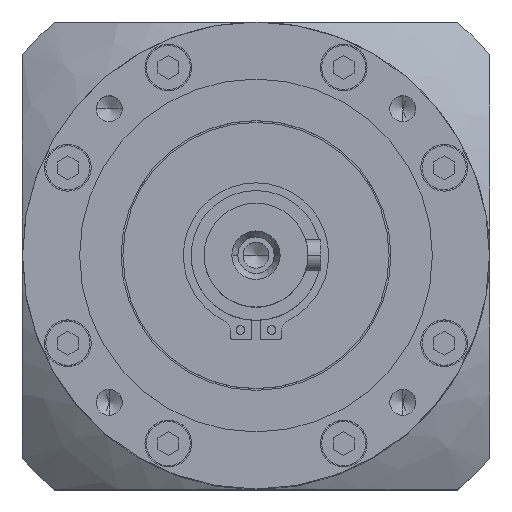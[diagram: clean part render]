
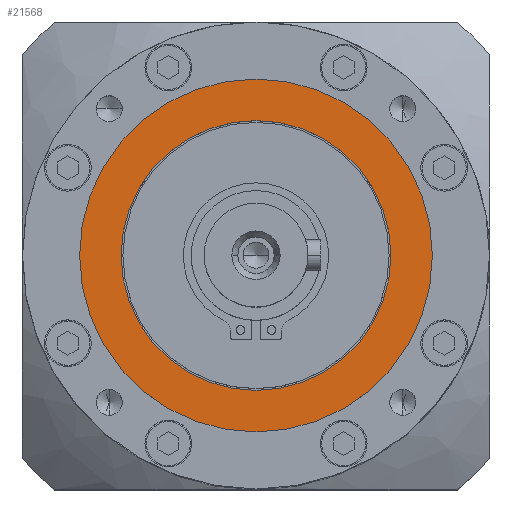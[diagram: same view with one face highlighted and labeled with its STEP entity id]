
A CAD part, top view. The second image highlights one B-rep face of the part: STEP entity #21568.
In plain terms, the highlighted planar face has unit normal (0, 0, 1).
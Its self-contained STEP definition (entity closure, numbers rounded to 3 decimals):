
#25 = CARTESIAN_POINT ( 'NONE',  ( 0., 0., 0. ) ) ;
#321 = VERTEX_POINT ( 'NONE', #33119 ) ;
#520 = FACE_BOUND ( 'NONE', #11414, .T. ) ;
#3378 = DIRECTION ( 'NONE',  ( 1., 0., 0. ) ) ;
#3518 = EDGE_CURVE ( 'NONE', #16588, #5889, #18884, .T. ) ;
#5004 = DIRECTION ( 'NONE',  ( 0., 0., -1. ) ) ;
#5874 = AXIS2_PLACEMENT_3D ( 'NONE', #24040, #10869, #34052 ) ;
#5889 = VERTEX_POINT ( 'NONE', #11510 ) ;
#7917 = CARTESIAN_POINT ( 'NONE',  ( 34., 0., 0. ) ) ;
#8549 = DIRECTION ( 'NONE',  ( 0., 0., -1. ) ) ;
#10093 = AXIS2_PLACEMENT_3D ( 'NONE', #25, #23164, #3378 ) ;
#10869 = DIRECTION ( 'NONE',  ( 0., 0., -1. ) ) ;
#11088 = EDGE_LOOP ( 'NONE', ( #12193, #41373 ) ) ;
#11189 = EDGE_CURVE ( 'NONE', #5889, #16588, #30498, .T. ) ;
#11414 = EDGE_LOOP ( 'NONE', ( #12128, #18589 ) ) ;
#11510 = CARTESIAN_POINT ( 'NONE',  ( 26., 0., 0. ) ) ;
#12120 = DIRECTION ( 'NONE',  ( 0., 0., 1. ) ) ;
#12128 = ORIENTED_EDGE ( 'NONE', *, *, #11189, .F. ) ;
#12193 = ORIENTED_EDGE ( 'NONE', *, *, #13978, .F. ) ;
#13465 = AXIS2_PLACEMENT_3D ( 'NONE', #28350, #8549, #31702 ) ;
#13542 = AXIS2_PLACEMENT_3D ( 'NONE', #31949, #12120, #35290 ) ;
#13978 = EDGE_CURVE ( 'NONE', #24036, #321, #25659, .T. ) ;
#16588 = VERTEX_POINT ( 'NONE', #27678 ) ;
#17256 = PLANE ( 'NONE',  #5874 ) ;
#18589 = ORIENTED_EDGE ( 'NONE', *, *, #3518, .F. ) ;
#18884 = CIRCLE ( 'NONE', #13542, 26. ) ;
#20665 = EDGE_CURVE ( 'NONE', #321, #24036, #31098, .T. ) ;
#21568 = ADVANCED_FACE ( 'NONE', ( #520, #35747 ), #17256, .F. ) ;
#21949 = AXIS2_PLACEMENT_3D ( 'NONE', #24798, #5004, #28128 ) ;
#23164 = DIRECTION ( 'NONE',  ( 0., 0., 1. ) ) ;
#24036 = VERTEX_POINT ( 'NONE', #7917 ) ;
#24040 = CARTESIAN_POINT ( 'NONE',  ( 0., 26., 0. ) ) ;
#24798 = CARTESIAN_POINT ( 'NONE',  ( 0., 0., 0. ) ) ;
#25659 = CIRCLE ( 'NONE', #13465, 34. ) ;
#27678 = CARTESIAN_POINT ( 'NONE',  ( -26., 0., 0. ) ) ;
#28128 = DIRECTION ( 'NONE',  ( 1., 0., 0. ) ) ;
#28350 = CARTESIAN_POINT ( 'NONE',  ( 0., 0., 0. ) ) ;
#30498 = CIRCLE ( 'NONE', #10093, 26. ) ;
#31098 = CIRCLE ( 'NONE', #21949, 34. ) ;
#31702 = DIRECTION ( 'NONE',  ( 1., 0., 0. ) ) ;
#31949 = CARTESIAN_POINT ( 'NONE',  ( 0., 0., 0. ) ) ;
#33119 = CARTESIAN_POINT ( 'NONE',  ( -34., 0., 0. ) ) ;
#34052 = DIRECTION ( 'NONE',  ( -1., 0., 0. ) ) ;
#35290 = DIRECTION ( 'NONE',  ( 1., 0., 0. ) ) ;
#35747 = FACE_OUTER_BOUND ( 'NONE', #11088, .T. ) ;
#41373 = ORIENTED_EDGE ( 'NONE', *, *, #20665, .F. ) ;
